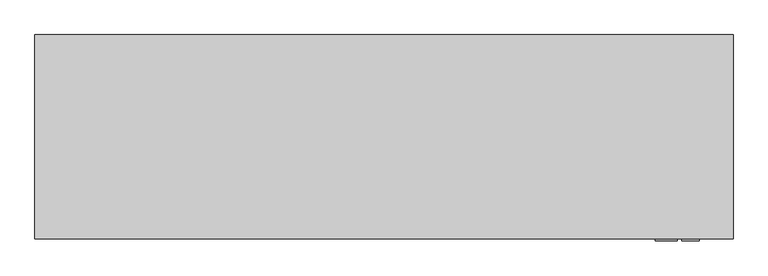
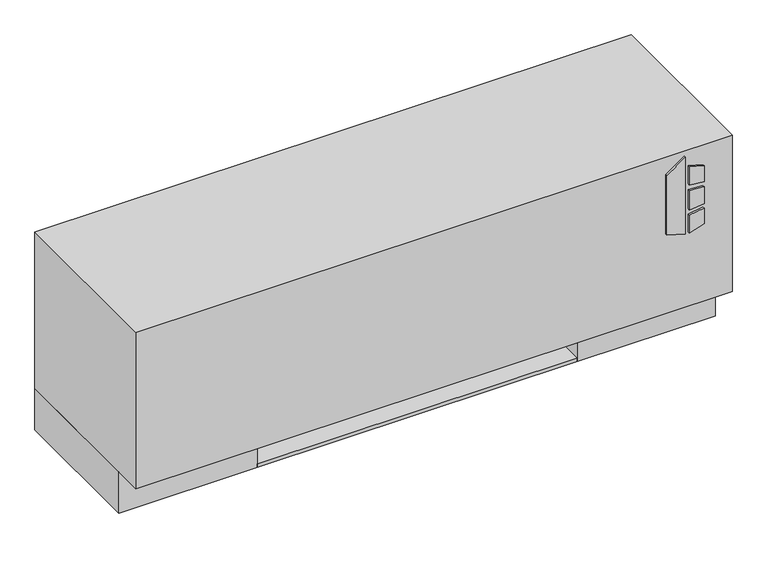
"""IFC4 building model written with IfcOpenShell, lengths in millimetres: proxy geometry, Exposed_Low_Boy_Fan_Coil_Unit Fan_-_LXA_-_IEC_-_2-Pipe_LH_2022 : Size 02 - 277v/60Hz/1Ph - 2/1 Coil."""

from ifc_helpers import new_model, si_unit, point, frame, frame_2d, origin, origin_with_axes, place, context, project, spatial, polyline, circle_curve, trimmed, segment, composite_curve, outline, extrude, faceted_brep, source, transform, mapped, element, save


def mechanical_equipment_dbaeb260(model_context):
    return source(origin(), model_context, "Body", "SolidModel", [
        faceted_brep([(393.7, -266.7, 114.3), (215.9, -266.7, 114.3), (215.9, -520.7, 114.3), (393.7, -520.7, 114.3), (219.075, -269.875, 114.3), (390.525, -269.875, 114.3), (390.525, -517.525, 114.3), (219.075, -517.525, 114.3), (393.7, -266.7, 88.9), (393.7, -520.7, 88.9), (215.9, -520.7, 88.9), (215.9, -266.7, 88.9), (390.525, -269.875, 92.0747888), (219.075, -269.875, 92.0747888), (219.075, -517.525, 92.0747888), (390.525, -517.525, 92.0747888)], [[[0, 1, 2, 3], [4, 5, 6, 7]], [[8, 9, 10, 11]], [[1, 0, 8, 11]], [[2, 1, 11, 10]], [[3, 2, 10, 9]], [[0, 3, 9, 8]], [[12, 13, 14, 15]], [[13, 12, 5, 4]], [[14, 13, 4, 7]], [[15, 14, 7, 6]], [[12, 15, 6, 5]]]),
        extrude(outline(composite_curve([segment(trimmed(circle_curve(frame_2d((304.8, -393.7)), 9.525), [point((295.275, -393.7))], [point((314.325, -393.7))], False, "CARTESIAN"), True, "CONTINUOUS"), segment(trimmed(circle_curve(frame_2d((304.8, -393.7)), 9.525), [point((314.325, -393.7))], [point((295.275, -393.7))], False, "CARTESIAN"), True, "CONTINUOUS")], self_intersect=False)), frame((0.0, 0.0, 63.5), z_axis=(0.0, 0.0, 1.0), x_axis=(1.0, 0.0, 0.0)), (0.0, 0.0, 1.0), 25.4),
        extrude(outline(polyline([(222.6730703, 1077.9868862), (212.725, 1110.1602728), (354.8959244, 1110.1602728), (331.8739183, 1077.9868862), (222.6730703, 1077.9868862)])), frame((0.0, -546.1, 0.0), z_axis=(0.0, 1.0, 0.0), x_axis=(0.0, 0.0, 1.0)), (0.0, 0.0, 1.0), 3.175),
        extrude(outline(polyline([(301.6723557, 1116.9186058), (298.4699632, 1143.0), (327.6988042, 1143.0), (335.7632193, 1116.9186058), (301.6723557, 1116.9186058)])), frame((0.0, -546.1, 0.0), z_axis=(0.0, 1.0, 0.0), x_axis=(0.0, 0.0, 1.0)), (0.0, 0.0, 1.0), 3.175),
        extrude(outline(polyline([(249.8088288, 1143.0), (246.1433279, 1116.9186058), (212.725, 1116.9186058), (221.3592372, 1143.0), (249.8088288, 1143.0)])), frame((0.0, -546.1, 0.0), z_axis=(0.0, 1.0, 0.0), x_axis=(0.0, 0.0, 1.0)), (0.0, 0.0, 1.0), 3.175),
        extrude(outline(polyline([(289.1239903, 1143.0), (291.4058166, 1116.9186058), (255.4682681, 1116.9186058), (258.2095331, 1143.0), (289.1239903, 1143.0)])), frame((0.0, -546.1, 0.0), z_axis=(0.0, 1.0, 0.0), x_axis=(0.0, 0.0, 1.0)), (0.0, 0.0, 1.0), 3.175),
        faceted_brep([(1193.8, -238.125, 365.125), (152.4, -238.125, 365.125), (152.4, -542.925, 365.125), (1193.8, -542.925, 365.125), (1193.8, -238.125, 76.2), (1193.8, -542.925, 76.2), (152.4, -542.925, 76.2), (152.4, -238.125, 76.2), (165.1, -238.125, 76.2), (165.1, -517.525, 76.2), (393.7, -517.525, 76.2), (393.7, -238.125, 76.2), (952.5, -238.125, 76.2), (952.5, -517.525, 76.2), (1181.1, -517.525, 76.2), (1181.1, -238.125, 76.2), (1181.1, -238.125, 339.725), (952.5, -238.125, 339.725), (393.7, -238.125, 339.725), (165.1, -238.125, 339.725), (1181.1, -517.525, 339.725), (952.5, -517.525, 339.725), (393.7, -517.525, 339.725), (165.1, -517.525, 339.725)], [[[0, 1, 2, 3]], [[4, 5, 6, 7, 8, 9, 10, 11, 12, 13, 14, 15]], [[1, 0, 4, 15, 16, 17, 12, 11, 18, 19, 8, 7]], [[2, 1, 7, 6]], [[3, 2, 6, 5]], [[0, 3, 5, 4]], [[16, 20, 21, 17]], [[18, 22, 23, 19]], [[17, 21, 13, 12]], [[21, 20, 14, 13]], [[20, 16, 15, 14]], [[19, 23, 9, 8]], [[23, 22, 10, 9]], [[22, 18, 11, 10]]]),
        extrude(outline(polyline([(952.5, -492.125), (393.7, -492.125), (393.7, -244.475), (952.5, -244.475), (952.5, -492.125)])), origin_with_axes(), (0.0, 0.0, 1.0), 6.35),
        extrude(outline(polyline([(952.5, -238.125), (952.5, -244.475), (393.7, -244.475), (393.7, -238.125), (952.5, -238.125)])), origin_with_axes(), (0.0, 0.0, 1.0), 76.2),
        extrude(outline(polyline([(1193.8, -238.125), (1193.8, -492.125), (952.5, -492.125), (952.5, -238.125), (1193.8, -238.125)]), holes=[polyline([(965.2, -485.775), (1181.1, -485.775), (1181.1, -244.475), (965.2, -244.475), (965.2, -485.775)])]), origin_with_axes(), (0.0, 0.0, 1.0), 76.2),
        extrude(outline(polyline([(393.7, -238.125), (393.7, -492.125), (152.4, -492.125), (152.4, -238.125), (393.7, -238.125)]), holes=[polyline([(381.0, -244.475), (165.1, -244.475), (165.1, -485.775), (381.0, -485.775), (381.0, -244.475)])]), origin_with_axes(), (0.0, 0.0, 1.0), 76.2),
        extrude(outline(composite_curve([segment(trimmed(circle_curve(frame_2d((-485.775, 227.0125)), 7.9375), [point((-485.775, 219.075))], [point((-485.775, 234.95))], False, "CARTESIAN"), True, "CONTINUOUS"), segment(trimmed(circle_curve(frame_2d((-485.775, 227.0125)), 7.9375), [point((-485.775, 234.95))], [point((-485.775, 219.075))], False, "CARTESIAN"), True, "CONTINUOUS")], self_intersect=False)), frame((342.9, 0.0, 0.0), z_axis=(1.0, 0.0, 0.0), x_axis=(0.0, 1.0, 0.0)), (0.0, 0.0, 1.0), 50.8),
        extrude(outline(composite_curve([segment(trimmed(circle_curve(frame_2d((-269.875, 273.05)), 7.9375), [point((-269.875, 265.1125))], [point((-269.875, 280.9875))], False, "CARTESIAN"), True, "CONTINUOUS"), segment(trimmed(circle_curve(frame_2d((-269.875, 273.05)), 7.9375), [point((-269.875, 280.9875))], [point((-269.875, 265.1125))], False, "CARTESIAN"), True, "CONTINUOUS")], self_intersect=False)), frame((342.9, 0.0, 0.0), z_axis=(1.0, 0.0, 0.0), x_axis=(0.0, 1.0, 0.0)), (0.0, 0.0, 1.0), 50.8),
    ])


if __name__ == "__main__":
    model = new_model("IFC4")
    model_context = context("Model", 3, world=origin())
    ifc_project = project(units=[si_unit("LENGTHUNIT", "METRE", prefix="MILLI")], contexts=[model_context])
    site = spatial("IfcSite", under=ifc_project)
    building = spatial("IfcBuilding", under=site)
    placement = place(None, origin())
    mechanical_equipment_shape = mechanical_equipment_dbaeb260(model_context)
    element("IfcBuildingElementProxy", 1, Name="Exposed_Low_Boy_Fan_Coil_Unit Fan_-_LXA_-_IEC_-_2-Pipe_LH_2022 : Size 02 - 277v/60Hz/1Ph - 2/1 Coil", ObjectType="Exposed_Low_Boy_Fan_Coil_Unit Fan_-_LXA_-_IEC_-_2-Pipe_LH_2022 : Size 02 - 277v/60Hz/1Ph - 2/1 Coil", at=placement, inside=building, context=model_context, shape_type="MappedRepresentation", body=[
        mapped(mechanical_equipment_shape, transform((0.0, 0.0, 0.0), x_axis=(1.0, 0.0, 0.0), y_axis=(0.0, 1.0, 0.0), z_axis=(0.0, 0.0, 1.0))),
    ])
    save(model, "model.ifc")
